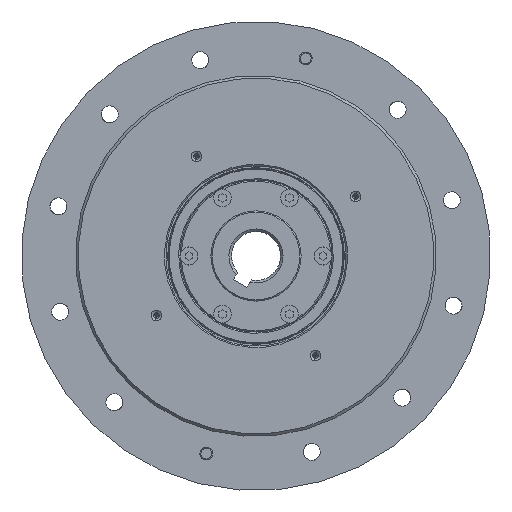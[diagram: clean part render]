
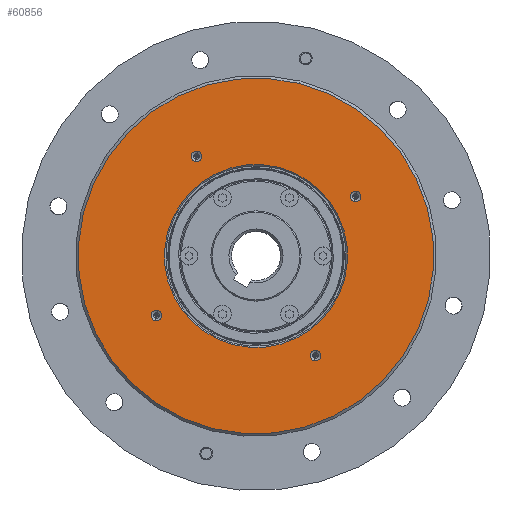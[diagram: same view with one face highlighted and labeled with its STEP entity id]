
A CAD part, left-side view. The second image highlights one B-rep face of the part: STEP entity #60856.
In plain terms, the highlighted planar face has unit normal (-1, 0, 0).
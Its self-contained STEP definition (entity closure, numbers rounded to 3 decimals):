
#2039 = AXIS2_PLACEMENT_3D ( 'NONE', #25980, #18839, #92020 ) ;
#2829 = VERTEX_POINT ( 'NONE', #21574 ) ;
#3075 = ORIENTED_EDGE ( 'NONE', *, *, #86420, .F. ) ;
#3308 = EDGE_CURVE ( 'NONE', #87888, #43957, #16120, .T. ) ;
#4185 = AXIS2_PLACEMENT_3D ( 'NONE', #17273, #74254, #82853 ) ;
#6530 = CIRCLE ( 'NONE', #59565, 2.1 ) ;
#7089 = DIRECTION ( 'NONE',  ( 0., -0.244, 0.97 ) ) ;
#8808 = CARTESIAN_POINT ( 'NONE',  ( -7., 38.103, -21.069 ) ) ;
#9237 = ORIENTED_EDGE ( 'NONE', *, *, #44703, .T. ) ;
#10557 = AXIS2_PLACEMENT_3D ( 'NONE', #61985, #82998, #54817 ) ;
#10903 = EDGE_CURVE ( 'NONE', #23740, #18386, #18052, .T. ) ;
#12048 = DIRECTION ( 'NONE',  ( -1., 0., 0. ) ) ;
#14254 = ORIENTED_EDGE ( 'NONE', *, *, #38166, .F. ) ;
#14978 = AXIS2_PLACEMENT_3D ( 'NONE', #36504, #29873, #30344 ) ;
#15198 = DIRECTION ( 'NONE',  ( 0., 0.244, -0.97 ) ) ;
#15207 = VERTEX_POINT ( 'NONE', #79772 ) ;
#16120 = CIRCLE ( 'NONE', #69157, 2.1 ) ;
#16194 = EDGE_CURVE ( 'NONE', #18386, #23740, #17200, .T. ) ;
#17200 = CIRCLE ( 'NONE', #70267, 69. ) ;
#17273 = CARTESIAN_POINT ( 'NONE',  ( -7., 0., 0. ) ) ;
#17320 = DIRECTION ( 'NONE',  ( -1., 0., 0. ) ) ;
#17460 = DIRECTION ( 'NONE',  ( 0., -0.244, 0.97 ) ) ;
#18052 = CIRCLE ( 'NONE', #71139, 69. ) ;
#18076 = CARTESIAN_POINT ( 'NONE',  ( -7., -39.127, 25.143 ) ) ;
#18331 = AXIS2_PLACEMENT_3D ( 'NONE', #65908, #73044, #7089 ) ;
#18386 = VERTEX_POINT ( 'NONE', #61832 ) ;
#18398 = VERTEX_POINT ( 'NONE', #44188 ) ;
#18839 = DIRECTION ( 'NONE',  ( 1., 0., 0. ) ) ;
#20145 = EDGE_CURVE ( 'NONE', #91124, #70358, #91724, .T. ) ;
#20395 = CARTESIAN_POINT ( 'NONE',  ( -7., 39.127, -25.143 ) ) ;
#21574 = CARTESIAN_POINT ( 'NONE',  ( -7., 22.594, 40.652 ) ) ;
#22326 = ORIENTED_EDGE ( 'NONE', *, *, #16194, .T. ) ;
#22420 = EDGE_CURVE ( 'NONE', #2829, #18398, #75743, .T. ) ;
#22994 = DIRECTION ( 'NONE',  ( 0., 0.244, -0.97 ) ) ;
#23203 = CARTESIAN_POINT ( 'NONE',  ( -7., 16.815, -66.92 ) ) ;
#23740 = VERTEX_POINT ( 'NONE', #23203 ) ;
#24459 = DIRECTION ( 'NONE',  ( 0., -0.244, 0.97 ) ) ;
#24768 = AXIS2_PLACEMENT_3D ( 'NONE', #26293, #17320, #24459 ) ;
#25980 = CARTESIAN_POINT ( 'NONE',  ( -7., 33.945, 8.53 ) ) ;
#26002 = EDGE_CURVE ( 'NONE', #15207, #65679, #40640, .T. ) ;
#26290 = DIRECTION ( 'NONE',  ( 0., -0.244, 0.97 ) ) ;
#26293 = CARTESIAN_POINT ( 'NONE',  ( -7., -23.106, -38.615 ) ) ;
#26930 = ORIENTED_EDGE ( 'NONE', *, *, #3308, .F. ) ;
#27003 = CARTESIAN_POINT ( 'NONE',  ( -7., 8.651, -34.43 ) ) ;
#27982 = AXIS2_PLACEMENT_3D ( 'NONE', #83119, #74965, #45046 ) ;
#29873 = DIRECTION ( 'NONE',  ( -1., 0., 0. ) ) ;
#30344 = DIRECTION ( 'NONE',  ( 0., -0.244, 0.97 ) ) ;
#31422 = CIRCLE ( 'NONE', #4185, 35.5 ) ;
#32609 = DIRECTION ( 'NONE',  ( -1., 0., 0. ) ) ;
#36501 = CIRCLE ( 'NONE', #18331, 2.1 ) ;
#36504 = CARTESIAN_POINT ( 'NONE',  ( -7., -38.615, 23.106 ) ) ;
#37174 = CARTESIAN_POINT ( 'NONE',  ( -7., 0., 0. ) ) ;
#37493 = EDGE_CURVE ( 'NONE', #18398, #2829, #80362, .T. ) ;
#38166 = EDGE_CURVE ( 'NONE', #43011, #93336, #36501, .T. ) ;
#38795 = FACE_BOUND ( 'NONE', #93699, .T. ) ;
#38907 = EDGE_CURVE ( 'NONE', #43957, #87888, #6530, .T. ) ;
#40640 = CIRCLE ( 'NONE', #14978, 2.1 ) ;
#41115 = DIRECTION ( 'NONE',  ( 0., -0.244, 0.97 ) ) ;
#41863 = EDGE_LOOP ( 'NONE', ( #9237, #69612 ) ) ;
#43011 = VERTEX_POINT ( 'NONE', #91471 ) ;
#43356 = EDGE_CURVE ( 'NONE', #65679, #15207, #78066, .T. ) ;
#43581 = CARTESIAN_POINT ( 'NONE',  ( -7., 38.615, -23.106 ) ) ;
#43607 = CARTESIAN_POINT ( 'NONE',  ( -7., -8.651, 34.43 ) ) ;
#43957 = VERTEX_POINT ( 'NONE', #8808 ) ;
#44188 = CARTESIAN_POINT ( 'NONE',  ( -7., 23.618, 36.578 ) ) ;
#44703 = EDGE_CURVE ( 'NONE', #70358, #91124, #31422, .T. ) ;
#45046 = DIRECTION ( 'NONE',  ( 0., -0.244, 0.97 ) ) ;
#45905 = FACE_BOUND ( 'NONE', #41863, .T. ) ;
#46689 = CARTESIAN_POINT ( 'NONE',  ( -7., 23.106, 38.615 ) ) ;
#50262 = DIRECTION ( 'NONE',  ( -1., 0., 0. ) ) ;
#53726 = EDGE_LOOP ( 'NONE', ( #79763, #26930 ) ) ;
#53951 = FACE_OUTER_BOUND ( 'NONE', #63878, .T. ) ;
#54817 = DIRECTION ( 'NONE',  ( 0., -0.244, 0.97 ) ) ;
#57093 = ORIENTED_EDGE ( 'NONE', *, *, #22420, .F. ) ;
#59565 = AXIS2_PLACEMENT_3D ( 'NONE', #43581, #83517, #17460 ) ;
#60856 = ADVANCED_FACE ( 'NONE', ( #45905, #53951, #81646, #74896, #68253, #38795 ), #67777, .F. ) ;
#61832 = CARTESIAN_POINT ( 'NONE',  ( -7., -16.815, 66.92 ) ) ;
#61985 = CARTESIAN_POINT ( 'NONE',  ( -7., 23.106, 38.615 ) ) ;
#62675 = ORIENTED_EDGE ( 'NONE', *, *, #10903, .T. ) ;
#62839 = AXIS2_PLACEMENT_3D ( 'NONE', #82318, #88958, #67960 ) ;
#63343 = ORIENTED_EDGE ( 'NONE', *, *, #26002, .F. ) ;
#63878 = EDGE_LOOP ( 'NONE', ( #62675, #22326 ) ) ;
#65679 = VERTEX_POINT ( 'NONE', #18076 ) ;
#65908 = CARTESIAN_POINT ( 'NONE',  ( -7., -23.106, -38.615 ) ) ;
#66158 = DIRECTION ( 'NONE',  ( -1., 0., 0. ) ) ;
#67777 = PLANE ( 'NONE',  #2039 ) ;
#67960 = DIRECTION ( 'NONE',  ( 0., 0.244, -0.97 ) ) ;
#68253 = FACE_BOUND ( 'NONE', #87674, .T. ) ;
#69157 = AXIS2_PLACEMENT_3D ( 'NONE', #76783, #32609, #41115 ) ;
#69612 = ORIENTED_EDGE ( 'NONE', *, *, #20145, .T. ) ;
#70267 = AXIS2_PLACEMENT_3D ( 'NONE', #37174, #66158, #22994 ) ;
#70358 = VERTEX_POINT ( 'NONE', #43607 ) ;
#71139 = AXIS2_PLACEMENT_3D ( 'NONE', #74030, #50262, #15198 ) ;
#73044 = DIRECTION ( 'NONE',  ( -1., 0., 0. ) ) ;
#74030 = CARTESIAN_POINT ( 'NONE',  ( -7., 0., 0. ) ) ;
#74254 = DIRECTION ( 'NONE',  ( 1., 0., 0. ) ) ;
#74896 = FACE_BOUND ( 'NONE', #92462, .T. ) ;
#74933 = ORIENTED_EDGE ( 'NONE', *, *, #43356, .F. ) ;
#74965 = DIRECTION ( 'NONE',  ( -1., 0., 0. ) ) ;
#75743 = CIRCLE ( 'NONE', #10557, 2.1 ) ;
#76783 = CARTESIAN_POINT ( 'NONE',  ( -7., 38.615, -23.106 ) ) ;
#77253 = AXIS2_PLACEMENT_3D ( 'NONE', #46689, #12048, #26290 ) ;
#78066 = CIRCLE ( 'NONE', #27982, 2.1 ) ;
#79415 = CIRCLE ( 'NONE', #24768, 2.1 ) ;
#79763 = ORIENTED_EDGE ( 'NONE', *, *, #38907, .F. ) ;
#79772 = CARTESIAN_POINT ( 'NONE',  ( -7., -38.103, 21.069 ) ) ;
#80362 = CIRCLE ( 'NONE', #77253, 2.1 ) ;
#81646 = FACE_BOUND ( 'NONE', #53726, .T. ) ;
#82318 = CARTESIAN_POINT ( 'NONE',  ( -7., 0., 0. ) ) ;
#82853 = DIRECTION ( 'NONE',  ( 0., 0.244, -0.97 ) ) ;
#82998 = DIRECTION ( 'NONE',  ( -1., 0., 0. ) ) ;
#83119 = CARTESIAN_POINT ( 'NONE',  ( -7., -38.615, 23.106 ) ) ;
#83517 = DIRECTION ( 'NONE',  ( -1., 0., 0. ) ) ;
#86420 = EDGE_CURVE ( 'NONE', #93336, #43011, #79415, .T. ) ;
#87674 = EDGE_LOOP ( 'NONE', ( #57093, #90154 ) ) ;
#87888 = VERTEX_POINT ( 'NONE', #20395 ) ;
#87938 = CARTESIAN_POINT ( 'NONE',  ( -7., -23.618, -36.578 ) ) ;
#88958 = DIRECTION ( 'NONE',  ( 1., 0., 0. ) ) ;
#90154 = ORIENTED_EDGE ( 'NONE', *, *, #37493, .F. ) ;
#91124 = VERTEX_POINT ( 'NONE', #27003 ) ;
#91471 = CARTESIAN_POINT ( 'NONE',  ( -7., -22.594, -40.652 ) ) ;
#91724 = CIRCLE ( 'NONE', #62839, 35.5 ) ;
#92020 = DIRECTION ( 'NONE',  ( 0., 0.244, -0.97 ) ) ;
#92462 = EDGE_LOOP ( 'NONE', ( #3075, #14254 ) ) ;
#93336 = VERTEX_POINT ( 'NONE', #87938 ) ;
#93699 = EDGE_LOOP ( 'NONE', ( #74933, #63343 ) ) ;
